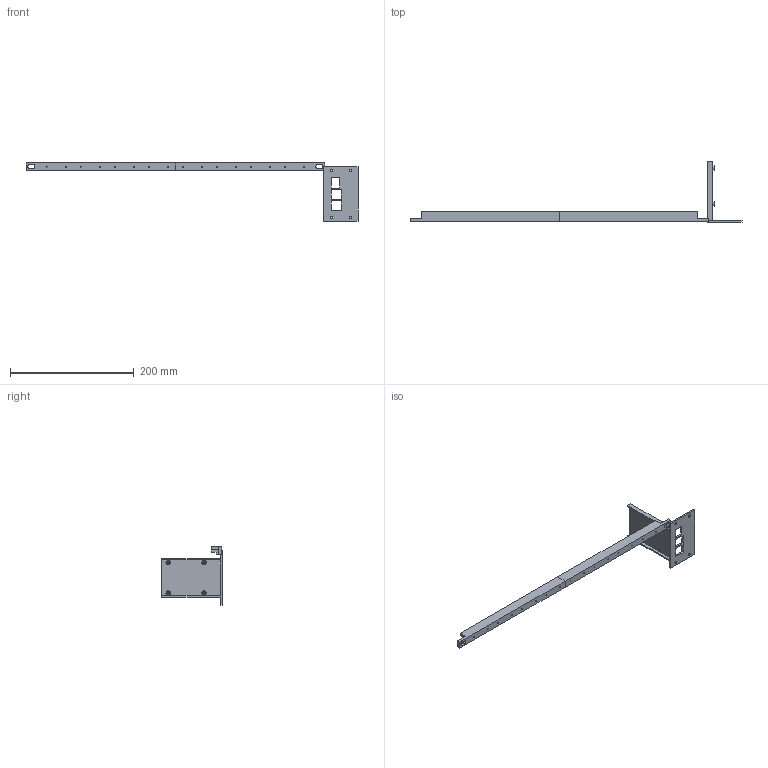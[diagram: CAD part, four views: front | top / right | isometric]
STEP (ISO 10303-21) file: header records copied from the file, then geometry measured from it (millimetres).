
FILE_DESCRIPTION(('FreeCAD Model'),'2;1');
FILE_NAME('Open CASCADE Shape Model','2026-01-11T06:40:35',(''),(''), 'Open CASCADE STEP processor 7.8','FreeCAD','Unknown');
FILE_SCHEMA(('AUTOMOTIVE_DESIGN { 1 0 10303 214 1 1 1 1 }'));
Length unit declared in the file: millimetre
Products named in the file (5): Rack_Mount; Body009; Slice.0; Slice.1; Mount001
Assembly tree (4 placements, depth 2):
  Rack_Mount
    Body009
    Slice.0
    Slice.1
    Mount001
Bounding box: 536.15 x 98 x 94 mm (x, y, z)
Volume: 84388 mm3; surface area: 54517.5 mm2
Topology: 4 solids, 4 shells, 100 faces, 252 edges, 168 vertices
Faces by surface type: plane 64, cylinder 36
Full cylindrical faces by diameter (mm): 1.7 x16, 3 x4, 4 x4, 5 x4, 7 x4
Entity records: 3240 total; most frequent: DIRECTION 530, CARTESIAN_POINT 529, ORIENTED_EDGE 504, EDGE_CURVE 252, AXIS2_PLACEMENT_3D 177, LINE 176, VECTOR 176, VERTEX_POINT 168
